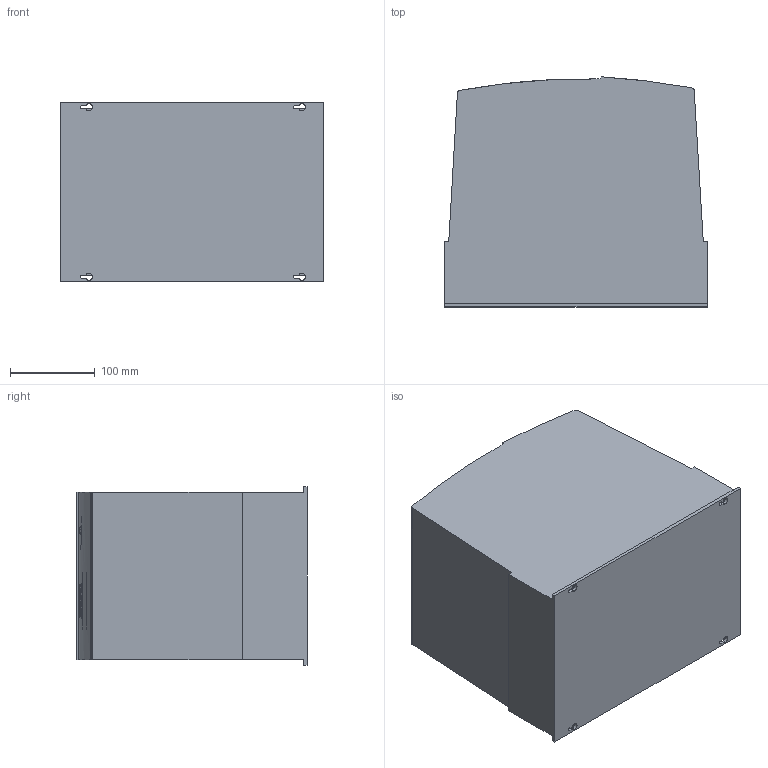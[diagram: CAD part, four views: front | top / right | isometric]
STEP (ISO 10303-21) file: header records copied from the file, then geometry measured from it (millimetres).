
FILE_DESCRIPTION (( 'STEP AP214' ), '1' );
FILE_NAME ('P2 S3 IP66 SW1.STEP', '2017-08-15T12:51:13', ( '' ), ( '' ), 'SwSTEP 2.0', 'SolidWorks 2017', '' );
FILE_SCHEMA (( 'AUTOMOTIVE_DESIGN' ));
Length unit declared in the file: millimetre
Products named in the file (1): P2 S3 IP66 SW1
Bounding box: 310 x 271.23 x 211 mm (x, y, z)
Volume: 15414186.2 mm3; surface area: 385491.3 mm2
Topology: 1 solids, 1 shells, 342 faces, 893 edges, 590 vertices
Faces by surface type: plane 180, cylinder 109, bspline 53
Entity records: 12527 total; most frequent: CARTESIAN_POINT 4691, ORIENTED_EDGE 1786, DIRECTION 1361, EDGE_CURVE 893, VERTEX_POINT 590, AXIS2_PLACEMENT_3D 454, VECTOR 453, LINE 453
